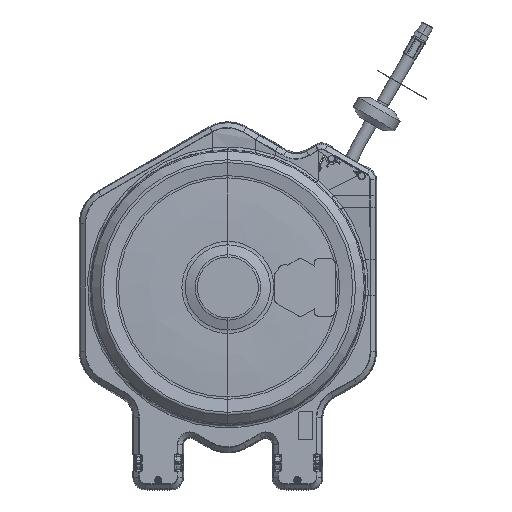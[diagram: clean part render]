
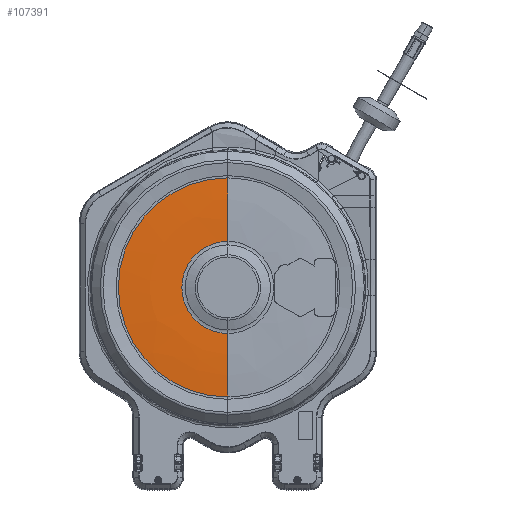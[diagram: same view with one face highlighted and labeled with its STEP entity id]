
A CAD part, top view. The second image highlights one B-rep face of the part: STEP entity #107391.
In plain terms, the highlighted free-form (B-spline) face has degree [3, 3] with [7, 4] control points.
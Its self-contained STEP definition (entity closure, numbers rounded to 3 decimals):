
#70138=CARTESIAN_POINT('',(0.,0.,3.575));
#70139=DIRECTION('',(0.,0.,-1.));
#70140=DIRECTION('',(0.,-1.,0.));
#70141=AXIS2_PLACEMENT_3D('',#70138,#70139,#70140);
#70143=CARTESIAN_POINT('',(0.,-3.946,-39.719));
#70144=DIRECTION('',(-1.,0.,0.));
#70145=DIRECTION('',(0.,-0.066,0.998));
#70146=AXIS2_PLACEMENT_3D('',#70143,#70144,#70145);
#70148=CARTESIAN_POINT('',(0.,0.,3.493));
#70149=DIRECTION('',(0.,0.,-1.));
#70150=DIRECTION('',(0.,-1.,0.));
#70151=AXIS2_PLACEMENT_3D('',#70148,#70149,#70150);
#70153=CARTESIAN_POINT('',(0.,3.946,-39.719));
#70154=DIRECTION('',(1.,0.,0.));
#70155=DIRECTION('',(0.,0.066,0.998));
#70156=AXIS2_PLACEMENT_3D('',#70153,#70154,#70155);
#96950=CARTESIAN_POINT('',(0.,-6.819,3.493));
#96951=CARTESIAN_POINT('',(0.,6.819,3.493));
#96952=VERTEX_POINT('',#96950);
#96953=VERTEX_POINT('',#96951);
#96966=CARTESIAN_POINT('',(0.,-2.867,3.575));
#96967=CARTESIAN_POINT('',(0.,2.867,3.575));
#96968=VERTEX_POINT('',#96966);
#96969=VERTEX_POINT('',#96967);
#107353=CARTESIAN_POINT('',(2.659,0.84,
3.573));
#107354=CARTESIAN_POINT('',(3.966,1.253,
3.609));
#107355=CARTESIAN_POINT('',(5.273,1.666,
3.581));
#107356=CARTESIAN_POINT('',(6.577,2.078,
3.487));
#107357=CARTESIAN_POINT('',(3.68,-2.394,
3.573));
#107358=CARTESIAN_POINT('',(5.49,-3.57,
3.609));
#107359=CARTESIAN_POINT('',(7.299,-4.747,
3.581));
#107360=CARTESIAN_POINT('',(9.105,-5.921,
3.487));
#107361=CARTESIAN_POINT('',(0.877,-4.302,
3.573));
#107362=CARTESIAN_POINT('',(1.308,-6.416,
3.609));
#107363=CARTESIAN_POINT('',(1.739,-8.531,
3.581));
#107364=CARTESIAN_POINT('',(2.169,-10.642,
3.487));
#107365=CARTESIAN_POINT('',(-1.757,-2.165,
3.573));
#107366=CARTESIAN_POINT('',(-2.62,-3.23,
3.609));
#107367=CARTESIAN_POINT('',(-3.484,-4.294,
3.581));
#107368=CARTESIAN_POINT('',(-4.346,-5.357,
3.487));
#107369=CARTESIAN_POINT('',(-4.39,-0.029,
3.573));
#107370=CARTESIAN_POINT('',(-6.548,-0.043,
3.609));
#107371=CARTESIAN_POINT('',(-8.707,-0.057,
3.581));
#107372=CARTESIAN_POINT('',(-10.861,-0.071,
3.487));
#107373=CARTESIAN_POINT('',(-3.101,3.108,
3.573));
#107374=CARTESIAN_POINT('',(-4.625,4.636,
3.609));
#107375=CARTESIAN_POINT('',(-6.15,6.164,
3.581));
#107376=CARTESIAN_POINT('',(-7.671,7.688,
3.487));
#107377=CARTESIAN_POINT('',(0.274,2.775,
3.573));
#107378=CARTESIAN_POINT('',(0.409,4.139,
3.609));
#107379=CARTESIAN_POINT('',(0.543,5.503,
3.581));
#107380=CARTESIAN_POINT('',(0.678,6.864,
3.487));
#107381=(BOUNDED_SURFACE()B_SPLINE_SURFACE(3,3,((#107353,#107354,#107355,
#107356),(#107357,#107358,#107359,#107360),(#107361,#107362,#107363,#107364),(
#107365,#107366,#107367,#107368),(#107369,#107370,#107371,#107372),(#107373,
#107374,#107375,#107376),(#107377,#107378,#107379,#107380)),.UNSPECIFIED.,.F.,
.F.,.F.)B_SPLINE_SURFACE_WITH_KNOTS((4,3,4),(4,4),(0.,1.,2.),(0.,1.),
.UNSPECIFIED.)GEOMETRIC_REPRESENTATION_ITEM()RATIONAL_B_SPLINE_SURFACE(((
1.554,1.553,1.553,1.554),(
0.816,0.815,0.815,0.816),(
0.816,0.815,0.815,0.816),(
1.554,1.553,1.553,1.554),(
0.816,0.815,0.815,0.816),(
0.816,0.815,0.815,0.816),(
1.554,1.553,1.553,1.554)))REPRESENTATION_ITEM('')SURFACE());
#107383=ORIENTED_EDGE('',*,*,#107382,.F.);
#107385=ORIENTED_EDGE('',*,*,#107384,.F.);
#107386=ORIENTED_EDGE('',*,*,#107307,.T.);
#107388=ORIENTED_EDGE('',*,*,#107387,.T.);
#107389=EDGE_LOOP('',(#107383,#107385,#107386,#107388));
#107390=FACE_OUTER_BOUND('',#107389,.F.);
#107391=ADVANCED_FACE('',(#107390),#107381,.T.);
#70142=CIRCLE('',#70141,2.867);
#70147=CIRCLE('',#70146,43.307);
#70152=CIRCLE('',#70151,6.819);
#70157=CIRCLE('',#70156,43.307);
#107307=EDGE_CURVE('',#96952,#96953,#70152,.T.);
#107382=EDGE_CURVE('',#96968,#96969,#70142,.T.);
#107384=EDGE_CURVE('',#96952,#96968,#70147,.T.);
#107387=EDGE_CURVE('',#96953,#96969,#70157,.T.);
